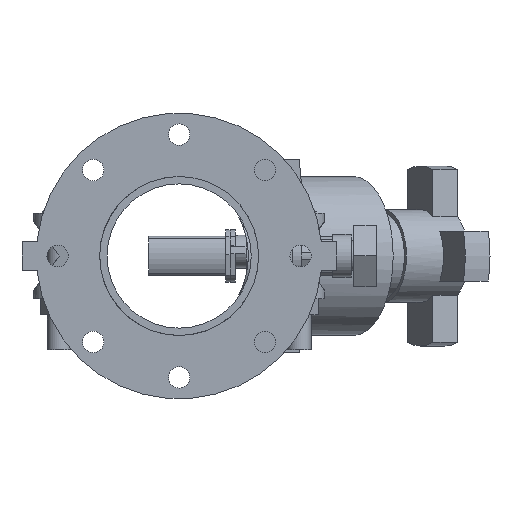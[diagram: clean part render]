
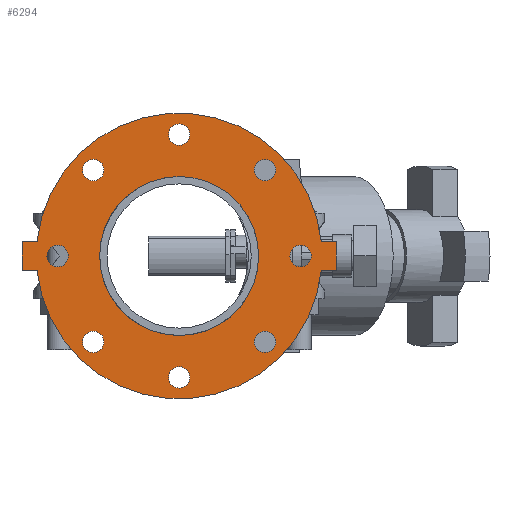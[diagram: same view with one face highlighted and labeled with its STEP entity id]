
A CAD part, front view. The second image highlights one B-rep face of the part: STEP entity #6294.
In plain terms, the highlighted planar face has unit normal (0, -1, 0) as drawn and (0, 0, 1) by its records, which use the part's own axes.
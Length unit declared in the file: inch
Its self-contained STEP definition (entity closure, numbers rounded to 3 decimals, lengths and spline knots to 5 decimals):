
#166=FACE_BOUND('',#800,.T.);
#167=FACE_BOUND('',#801,.T.);
#168=FACE_BOUND('',#802,.T.);
#169=FACE_BOUND('',#803,.T.);
#170=FACE_BOUND('',#804,.T.);
#171=FACE_BOUND('',#805,.T.);
#172=FACE_BOUND('',#806,.T.);
#173=FACE_BOUND('',#807,.T.);
#174=FACE_BOUND('',#808,.T.);
#234=PLANE('',#6832);
#448=FACE_OUTER_BOUND('',#799,.T.);
#799=EDGE_LOOP('',(#4097,#4098,#4099,#4100,#4101,#4102,#4103,#4104));
#800=EDGE_LOOP('',(#4105));
#801=EDGE_LOOP('',(#4106));
#802=EDGE_LOOP('',(#4107));
#803=EDGE_LOOP('',(#4108));
#804=EDGE_LOOP('',(#4109));
#805=EDGE_LOOP('',(#4110));
#806=EDGE_LOOP('',(#4111));
#807=EDGE_LOOP('',(#4112));
#808=EDGE_LOOP('',(#4113,#4114));
#1204=LINE('',#9564,#1689);
#1205=LINE('',#9567,#1690);
#1208=LINE('',#9572,#1693);
#1209=LINE('',#9575,#1694);
#1211=LINE('',#9578,#1696);
#1212=LINE('',#9580,#1697);
#1689=VECTOR('',#7619,0.3937);
#1690=VECTOR('',#7622,0.3937);
#1693=VECTOR('',#7627,0.3937);
#1694=VECTOR('',#7630,0.3937);
#1696=VECTOR('',#7634,0.3937);
#1697=VECTOR('',#7637,0.3937);
#2154=CIRCLE('',#6791,0.375);
#2156=CIRCLE('',#6794,0.375);
#2158=CIRCLE('',#6797,0.375);
#2160=CIRCLE('',#6800,0.375);
#2162=CIRCLE('',#6803,0.375);
#2164=CIRCLE('',#6806,0.375);
#2166=CIRCLE('',#6809,0.375);
#2168=CIRCLE('',#6812,0.375);
#2174=CIRCLE('',#6820,5.);
#2175=CIRCLE('',#6822,2.7815);
#2176=CIRCLE('',#6823,2.7815);
#2177=CIRCLE('',#6825,5.);
#2501=VERTEX_POINT('',#9475);
#2503=VERTEX_POINT('',#9481);
#2505=VERTEX_POINT('',#9487);
#2507=VERTEX_POINT('',#9493);
#2509=VERTEX_POINT('',#9499);
#2511=VERTEX_POINT('',#9505);
#2513=VERTEX_POINT('',#9511);
#2515=VERTEX_POINT('',#9517);
#2527=VERTEX_POINT('',#9544);
#2528=VERTEX_POINT('',#9546);
#2529=VERTEX_POINT('',#9550);
#2530=VERTEX_POINT('',#9552);
#2531=VERTEX_POINT('',#9556);
#2532=VERTEX_POINT('',#9558);
#2533=VERTEX_POINT('',#9562);
#2534=VERTEX_POINT('',#9566);
#2535=VERTEX_POINT('',#9570);
#2536=VERTEX_POINT('',#9574);
#3108=EDGE_CURVE('',#2501,#2501,#2154,.T.);
#3111=EDGE_CURVE('',#2503,#2503,#2156,.T.);
#3114=EDGE_CURVE('',#2505,#2505,#2158,.T.);
#3117=EDGE_CURVE('',#2507,#2507,#2160,.T.);
#3120=EDGE_CURVE('',#2509,#2509,#2162,.T.);
#3123=EDGE_CURVE('',#2511,#2511,#2164,.T.);
#3126=EDGE_CURVE('',#2513,#2513,#2166,.T.);
#3129=EDGE_CURVE('',#2515,#2515,#2168,.T.);
#3144=EDGE_CURVE('',#2527,#2528,#2174,.T.);
#3146=EDGE_CURVE('',#2530,#2529,#2175,.T.);
#3147=EDGE_CURVE('',#2529,#2530,#2176,.T.);
#3149=EDGE_CURVE('',#2532,#2531,#2177,.T.);
#3152=EDGE_CURVE('',#2528,#2533,#1204,.T.);
#3153=EDGE_CURVE('',#2534,#2532,#1205,.T.);
#3156=EDGE_CURVE('',#2531,#2535,#1208,.T.);
#3157=EDGE_CURVE('',#2536,#2527,#1209,.T.);
#3159=EDGE_CURVE('',#2535,#2536,#1211,.T.);
#3160=EDGE_CURVE('',#2533,#2534,#1212,.T.);
#4097=ORIENTED_EDGE('',*,*,#3156,.T.);
#4098=ORIENTED_EDGE('',*,*,#3159,.T.);
#4099=ORIENTED_EDGE('',*,*,#3157,.T.);
#4100=ORIENTED_EDGE('',*,*,#3144,.T.);
#4101=ORIENTED_EDGE('',*,*,#3152,.T.);
#4102=ORIENTED_EDGE('',*,*,#3160,.T.);
#4103=ORIENTED_EDGE('',*,*,#3153,.T.);
#4104=ORIENTED_EDGE('',*,*,#3149,.T.);
#4105=ORIENTED_EDGE('',*,*,#3108,.T.);
#4106=ORIENTED_EDGE('',*,*,#3111,.T.);
#4107=ORIENTED_EDGE('',*,*,#3114,.T.);
#4108=ORIENTED_EDGE('',*,*,#3117,.T.);
#4109=ORIENTED_EDGE('',*,*,#3120,.T.);
#4110=ORIENTED_EDGE('',*,*,#3123,.T.);
#4111=ORIENTED_EDGE('',*,*,#3126,.T.);
#4112=ORIENTED_EDGE('',*,*,#3129,.T.);
#4113=ORIENTED_EDGE('',*,*,#3146,.T.);
#4114=ORIENTED_EDGE('',*,*,#3147,.T.);
#6294=ADVANCED_FACE('',(#448,#166,#167,#168,#169,#170,#171,#172,#173,#174),
#234,.T.);
#6791=AXIS2_PLACEMENT_3D('',#9476,#7527,#7528);
#6794=AXIS2_PLACEMENT_3D('',#9482,#7534,#7535);
#6797=AXIS2_PLACEMENT_3D('',#9488,#7541,#7542);
#6800=AXIS2_PLACEMENT_3D('',#9494,#7548,#7549);
#6803=AXIS2_PLACEMENT_3D('',#9500,#7555,#7556);
#6806=AXIS2_PLACEMENT_3D('',#9506,#7562,#7563);
#6809=AXIS2_PLACEMENT_3D('',#9512,#7569,#7570);
#6812=AXIS2_PLACEMENT_3D('',#9518,#7576,#7577);
#6820=AXIS2_PLACEMENT_3D('',#9548,#7601,#7602);
#6822=AXIS2_PLACEMENT_3D('',#9553,#7606,#7607);
#6823=AXIS2_PLACEMENT_3D('',#9554,#7608,#7609);
#6825=AXIS2_PLACEMENT_3D('',#9559,#7613,#7614);
#6832=AXIS2_PLACEMENT_3D('',#9581,#7638,#7639);
#7527=DIRECTION('center_axis',(0.,0.,-1.));
#7528=DIRECTION('ref_axis',(-0.707,0.707,0.));
#7534=DIRECTION('center_axis',(0.,0.,-1.));
#7535=DIRECTION('ref_axis',(0.,1.,0.));
#7541=DIRECTION('center_axis',(0.,0.,-1.));
#7542=DIRECTION('ref_axis',(0.707,0.707,0.));
#7548=DIRECTION('center_axis',(0.,0.,-1.));
#7549=DIRECTION('ref_axis',(1.,0.,0.));
#7555=DIRECTION('center_axis',(0.,0.,-1.));
#7556=DIRECTION('ref_axis',(0.707,-0.707,0.));
#7562=DIRECTION('center_axis',(0.,0.,-1.));
#7563=DIRECTION('ref_axis',(0.,-1.,0.));
#7569=DIRECTION('center_axis',(0.,0.,-1.));
#7570=DIRECTION('ref_axis',(-0.707,-0.707,0.));
#7576=DIRECTION('center_axis',(0.,0.,-1.));
#7577=DIRECTION('ref_axis',(-1.,0.,0.));
#7601=DIRECTION('center_axis',(0.,0.,1.));
#7602=DIRECTION('ref_axis',(-1.,0.,0.));
#7606=DIRECTION('center_axis',(0.,0.,-1.));
#7607=DIRECTION('ref_axis',(-1.,0.,0.));
#7608=DIRECTION('center_axis',(0.,0.,-1.));
#7609=DIRECTION('ref_axis',(-1.,0.,0.));
#7613=DIRECTION('center_axis',(0.,0.,1.));
#7614=DIRECTION('ref_axis',(-1.,0.,0.));
#7619=DIRECTION('',(0.,1.,0.));
#7622=DIRECTION('',(0.,-1.,0.));
#7627=DIRECTION('',(0.,-1.,0.));
#7630=DIRECTION('',(0.,1.,0.));
#7634=DIRECTION('',(1.,0.,0.));
#7637=DIRECTION('',(-1.,0.,0.));
#7638=DIRECTION('center_axis',(0.,0.,1.));
#7639=DIRECTION('ref_axis',(1.,0.,0.));
#9475=CARTESIAN_POINT('',(-2.74004,2.74004,0.5));
#9476=CARTESIAN_POINT('Origin',(-3.0052,3.0052,0.5));
#9481=CARTESIAN_POINT('',(0.,3.875,0.5));
#9482=CARTESIAN_POINT('Origin',(0.,4.25,0.5));
#9487=CARTESIAN_POINT('',(2.74004,2.74004,0.5));
#9488=CARTESIAN_POINT('Origin',(3.0052,3.0052,0.5));
#9493=CARTESIAN_POINT('',(3.875,0.,0.5));
#9494=CARTESIAN_POINT('Origin',(4.25,0.,0.5));
#9499=CARTESIAN_POINT('',(2.74004,-2.74004,0.5));
#9500=CARTESIAN_POINT('Origin',(3.0052,-3.0052,0.5));
#9505=CARTESIAN_POINT('',(0.,-3.875,0.5));
#9506=CARTESIAN_POINT('Origin',(0.,-4.25,0.5));
#9511=CARTESIAN_POINT('',(-2.74004,-2.74004,0.5));
#9512=CARTESIAN_POINT('Origin',(-3.0052,-3.0052,0.5));
#9517=CARTESIAN_POINT('',(-3.875,0.,0.5));
#9518=CARTESIAN_POINT('Origin',(-4.25,0.,0.5));
#9544=CARTESIAN_POINT('',(0.5,-4.97494,0.5));
#9546=CARTESIAN_POINT('',(0.5,4.97494,0.5));
#9548=CARTESIAN_POINT('Origin',(0.,0.,0.5));
#9550=CARTESIAN_POINT('',(2.7815,0.,0.5));
#9552=CARTESIAN_POINT('',(0.5,2.73619,0.5));
#9553=CARTESIAN_POINT('Origin',(0.,0.,0.5));
#9554=CARTESIAN_POINT('Origin',(0.,0.,0.5));
#9556=CARTESIAN_POINT('',(-0.5,-4.97494,0.5));
#9558=CARTESIAN_POINT('',(-0.5,4.97494,0.5));
#9559=CARTESIAN_POINT('Origin',(0.,0.,0.5));
#9562=CARTESIAN_POINT('',(0.5,5.5,0.5));
#9564=CARTESIAN_POINT('',(0.5,5.5,0.5));
#9566=CARTESIAN_POINT('',(-0.5,5.5,0.5));
#9567=CARTESIAN_POINT('',(-0.5,-5.5,0.5));
#9570=CARTESIAN_POINT('',(-0.5,-5.5,0.5));
#9572=CARTESIAN_POINT('',(-0.5,-5.5,0.5));
#9574=CARTESIAN_POINT('',(0.5,-5.5,0.5));
#9575=CARTESIAN_POINT('',(0.5,5.5,0.5));
#9578=CARTESIAN_POINT('',(0.5,-5.5,0.5));
#9580=CARTESIAN_POINT('',(-0.5,5.5,0.5));
#9581=CARTESIAN_POINT('Origin',(0.,0.,0.5));
